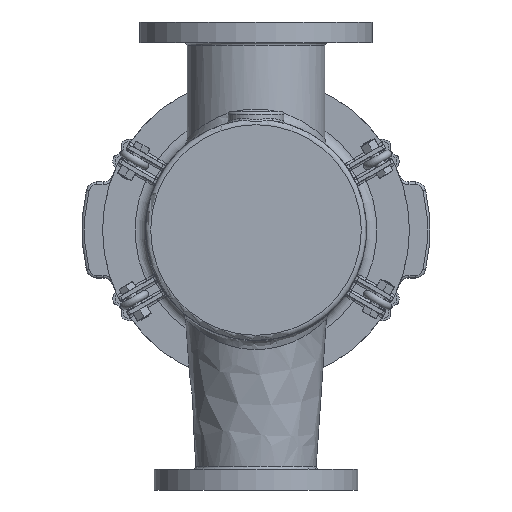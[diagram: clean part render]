
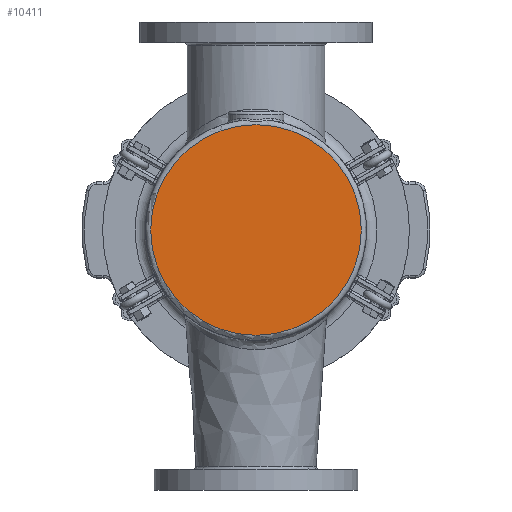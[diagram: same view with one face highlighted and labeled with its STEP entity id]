
A CAD part, front view. The second image highlights one B-rep face of the part: STEP entity #10411.
In plain terms, the highlighted planar face has unit normal (0, -1, 0).
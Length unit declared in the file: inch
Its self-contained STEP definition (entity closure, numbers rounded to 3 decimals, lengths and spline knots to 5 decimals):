
#1328=PLANE('',#11116);
#2220=FACE_OUTER_BOUND('',#2896,.T.);
#2896=EDGE_LOOP('',(#6932));
#3751=CIRCLE('',#11108,5.0625);
#4468=VERTEX_POINT('',#16074);
#5420=EDGE_CURVE('',#4468,#4468,#3751,.T.);
#6932=ORIENTED_EDGE('',*,*,#5420,.F.);
#10411=ADVANCED_FACE('',(#2220),#1328,.F.);
#11108=AXIS2_PLACEMENT_3D('',#16075,#12532,#12533);
#11116=AXIS2_PLACEMENT_3D('',#16086,#12548,#12549);
#12532=DIRECTION('center_axis',(0.,1.,0.));
#12533=DIRECTION('ref_axis',(1.,0.,0.));
#12548=DIRECTION('center_axis',(0.,1.,0.));
#12549=DIRECTION('ref_axis',(0.,0.,1.));
#16074=CARTESIAN_POINT('',(-5.0625,0.,0.));
#16075=CARTESIAN_POINT('Origin',(0.,0.,0.));
#16086=CARTESIAN_POINT('Origin',(0.,0.,0.));
